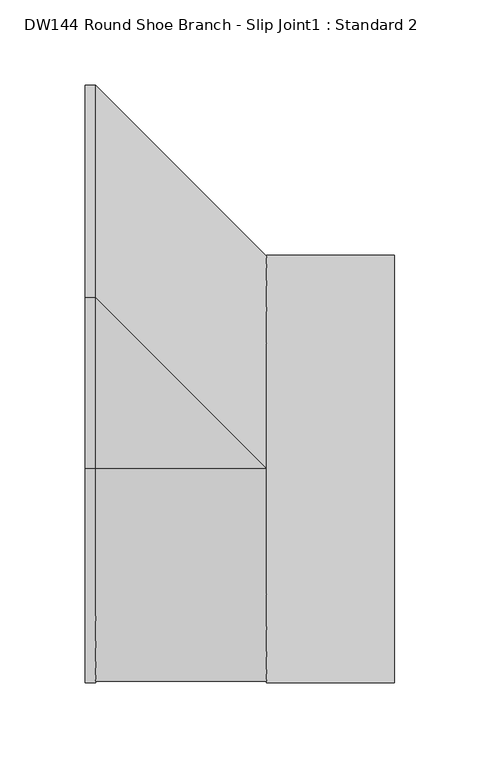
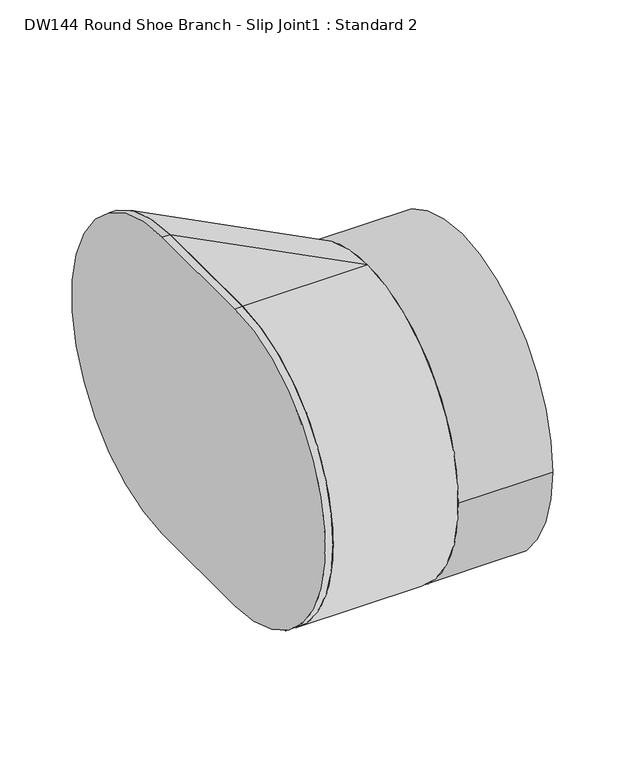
"""IFC4 building model written with IfcOpenShell, lengths in millimetres: duct fitting geometry, DW144 Round Shoe Branch - Slip Joint1 : Standard 2."""

from ifc_helpers import new_model, si_unit, point, frame, frame_2d, origin, origin_2d, place, context, project, spatial, polyline, circle_curve, trimmed, segment, composite_curve, outline, extrude, source, transform, mapped, element, save
from ifc_brep_helpers import plane_surface, cylinder_surface, extruded_surface, advanced_brep


def dw144_round_shoe_branch_slip_joint1_standard_2_671412f0(model_context):
    return source(origin(), model_context, "Body", "SolidModel", [
        extrude(outline(composite_curve([segment(trimmed(circle_curve(origin_2d(), 125.0), [point((125.0, 0.0))], [point((-125.0, 0.0))], False, "CARTESIAN"), True, "CONTINUOUS"), segment(trimmed(circle_curve(origin_2d(), 125.0), [point((-125.0, 0.0))], [point((125.0, 0.0))], False, "CARTESIAN"), True, "CONTINUOUS")], self_intersect=False)), frame((100.0, 0.0, 0.0), z_axis=(1.0, 0.0, 0.0), x_axis=(0.0, 1.0, 0.0)), (0.0, 0.0, 1.0), 75.0),
        advanced_brep(
        [(100.0, 0.0, -125.0), (100.0, 0.0, 125.0), (0.0, 0.0, -125.0), (0.0, 0.0, 125.0), (0.0, 100.0, 125.0), (0.0, 100.0, -125.0)],
        [
            (0, 1, circle_curve(frame((100.0, 0.0, 0.0), z_axis=(1.0, 0.0, 0.0), x_axis=(0.0, -1.0, 0.0)), 125.0)),
            (1, 0, circle_curve(frame((100.0, 0.0, 0.0), z_axis=(1.0, 0.0, 0.0), x_axis=(0.0, -1.0, 0.0)), 125.0)),
            (2, 3, circle_curve(frame((0.0, 0.0, 0.0), z_axis=(-1.0, 0.0, 0.0), x_axis=(0.0, -1.0, 0.0)), 125.0)),
            (3, 4),
            (4, 5, circle_curve(frame((0.0, 100.0, 0.0), z_axis=(-1.0, 0.0, 0.0), x_axis=(0.0, -1.0, 0.0)), 125.0)),
            (5, 2),
            (2, 0),
            (1, 3),
            (1, 4),
            (0, 5),
        ],
        [
            plane_surface(frame((100.0, 0.0, 0.0), z_axis=(1.0, 0.0, 0.0), x_axis=(0.0, -1.0, 0.0))),
            plane_surface(frame((0.0, 50.0, 0.0), z_axis=(-1.0, 0.0, 0.0), x_axis=(0.0, -1.0, 0.0))),
            cylinder_surface(frame((0.0, 0.0, 0.0), z_axis=(1.0, 0.0, 0.0), x_axis=(0.0, -1.0, 0.0)), 125.0),
            plane_surface(frame((0.0, 50.0, 125.0), z_axis=(0.0, 0.0, 1.0), x_axis=(0.0, 1.0, 0.0))),
            extruded_surface(trimmed(circle_curve(frame((100.0, 0.0, 0.0), z_axis=(-1.0, 0.0, 0.0), x_axis=(0.0, -1.0, 0.0)), 125.0), [point((100.0, 0.0, 125.0))], [point((100.0, 0.0, -125.0))], True, "CARTESIAN"), (-100.0, 100.0, 0.0), 141.4213562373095),
            plane_surface(frame((0.0, 50.0, -125.0), z_axis=(0.0, 0.0, -1.0), x_axis=(0.0, -1.0, 0.0))),
        ],
        [
            (0, [[1, 2]]),
            (1, [[3, 4, 5, 6]]),
            (2, [[7, -2, 8, -3]]),
            (3, [[-8, 9, -4]]),
            (4, [[-9, -1, 10, -5]]),
            (5, [[-10, -7, -6]]),
        ],
    ),
        extrude(outline(composite_curve([segment(trimmed(circle_curve(origin_2d(), 125.0), [point((0.0, -125.0))], [point((0.0, 125.0))], False, "CARTESIAN"), True, "CONTINUOUS"), segment(polyline([(0.0, 125.0), (100.0, 125.0)]), True, "CONTINUOUS"), segment(trimmed(circle_curve(frame_2d((100.0, 0.0)), 125.0), [point((100.0, 125.0))], [point((100.0, -125.0))], False, "CARTESIAN"), True, "CONTINUOUS"), segment(polyline([(100.0, -125.0), (0.0, -125.0)]), True, "CONTINUOUS")], self_intersect=False)), frame((-6.096, 0.0, 0.0), z_axis=(1.0, 0.0, 0.0), x_axis=(0.0, 1.0, 0.0)), (0.0, 0.0, 1.0), 6.096),
    ])


if __name__ == "__main__":
    model = new_model("IFC4")
    model_context = context("Model", 3, world=origin())
    ifc_project = project(units=[si_unit("LENGTHUNIT", "METRE", prefix="MILLI")], contexts=[model_context])
    site = spatial("IfcSite", under=ifc_project)
    building = spatial("IfcBuilding", under=site)
    placement = place(None, origin())
    dw144_round_shoe_branch_slip_joint1_standard_2_shape = dw144_round_shoe_branch_slip_joint1_standard_2_671412f0(model_context)
    element("IfcDuctFitting", 1, ObjectType="DW144 Round Shoe Branch - Slip Joint1 : Standard 2", at=placement, inside=building, context=model_context, shape_type="MappedRepresentation", body=[
        mapped(dw144_round_shoe_branch_slip_joint1_standard_2_shape, transform((0.0, 0.0, 0.0), x_axis=(1.0, 0.0, 0.0), y_axis=(0.0, 1.0, 0.0), z_axis=(0.0, 0.0, 1.0))),
    ])
    save(model, "model.ifc")
